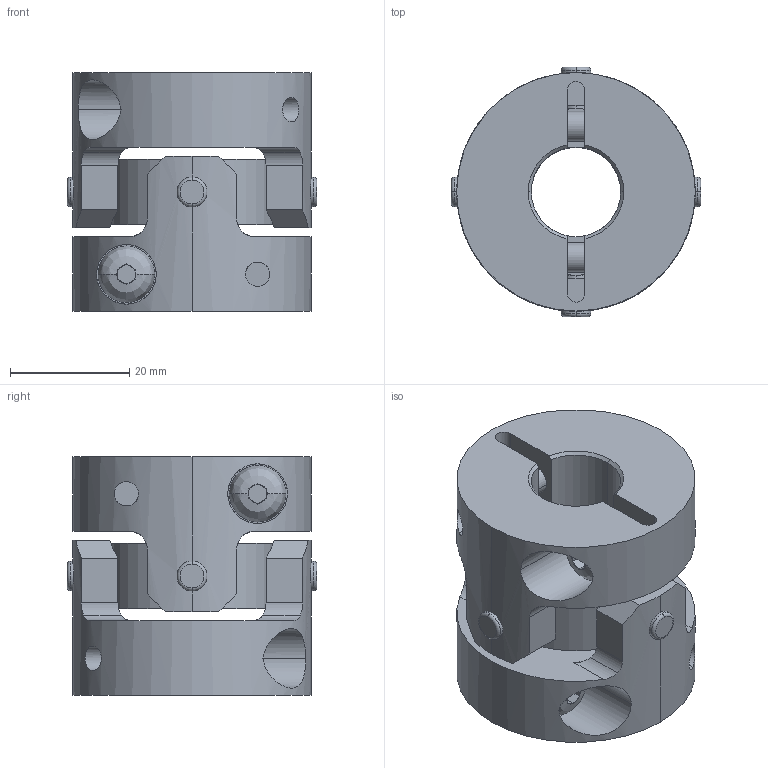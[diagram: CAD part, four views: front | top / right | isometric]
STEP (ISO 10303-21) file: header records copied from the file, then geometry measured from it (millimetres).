
FILE_DESCRIPTION((''),'2;1');
FILE_NAME('UA-40C-15×15.stp','2013-05-22T09:28:50',(''),(''),'AutoCAD STEP 2000i','AutoCAD 2000i',', , ');
FILE_SCHEMA(('CONFIG_CONTROL_DESIGN'));
Length unit declared in the file: millimetre
Products named in the file (6): UA-40C-8×8; 忣兜1; UA-4002-D08-1; BTN-M5; UA-4002-D08; UA40-SEN
Assembly tree (6 placements, depth 3):
  UA-40C-8×8
    忣兜1
    UA-4002-D08-1
      BTN-M5
    UA-4002-D08
      BTN-M5
    UA40-SEN
Bounding box: 41.81 x 41.81 x 40 mm (x, y, z)
Volume: 32578.2 mm3; surface area: 15438.8 mm2
Topology: 1 solids, 1 shells, 250 faces, 646 edges, 408 vertices
Faces by surface type: plane 122, cylinder 96, cone 16, bspline 8, torus 8
Entity records: 9627 total; most frequent: CARTESIAN_POINT 3371, ORIENTED_EDGE 1292, DIRECTION 1288, EDGE_CURVE 646, AXIS2_PLACEMENT_3D 497, VERTEX_POINT 408, VECTOR 294, LINE 294
